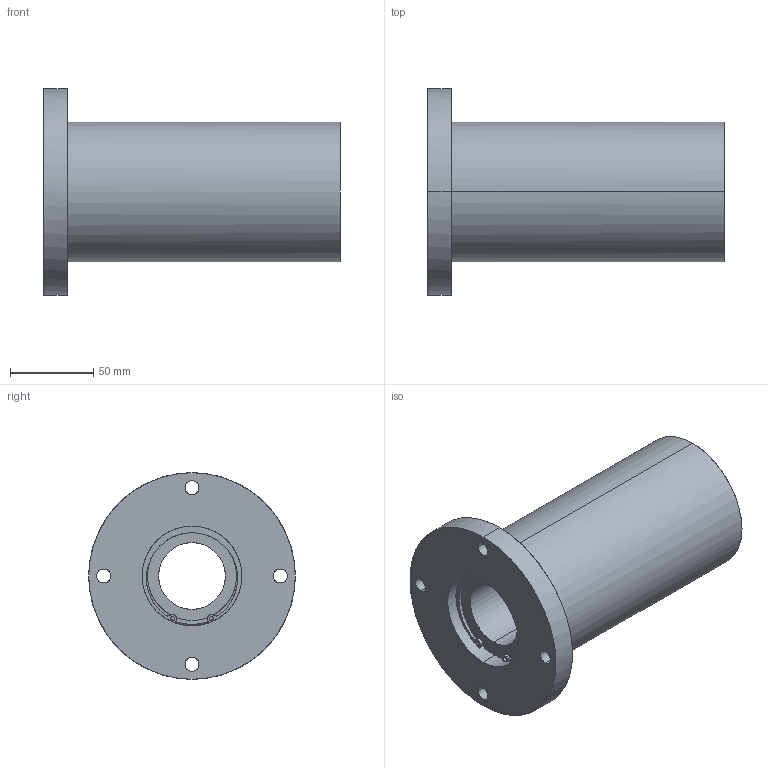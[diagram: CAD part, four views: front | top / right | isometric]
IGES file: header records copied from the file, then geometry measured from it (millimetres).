
Global section: file name: No Iges File Name specified; native system: AutoDesk Inventor R10; preprocessor: AutoDesk Inventor Iges Exporter R10; author: No Author specified; organization: No Organization specified; date: 20101214.134905; units: millimetre
Bounding box: 178 x 124 x 124 mm (x, y, z)
Surface area: 105796.3 mm2 (no closed solid volume)
Topology: 0 solids, 0 shells, 111 faces, 812 edges, 812 vertices
Faces by surface type: bspline 111
